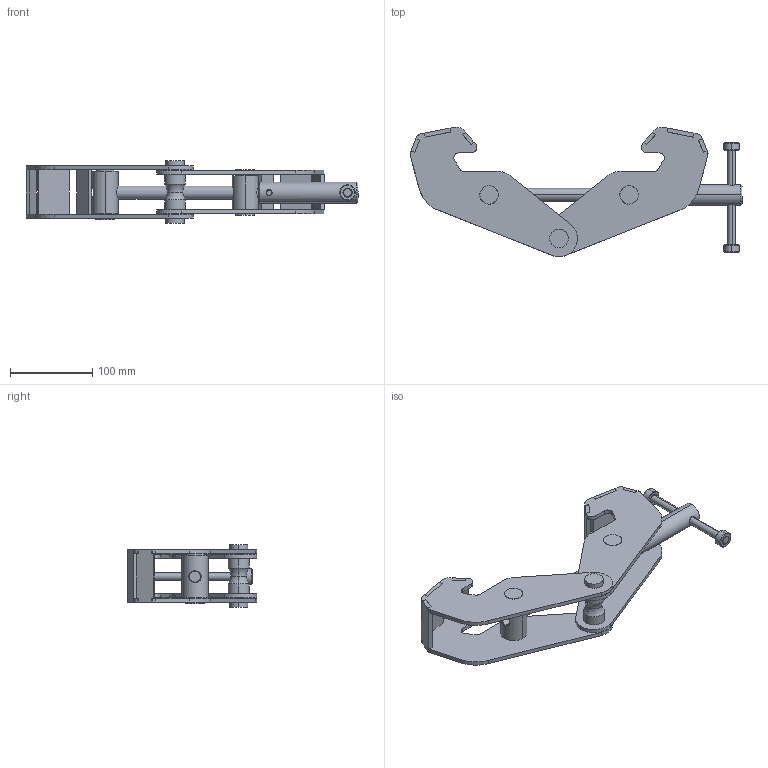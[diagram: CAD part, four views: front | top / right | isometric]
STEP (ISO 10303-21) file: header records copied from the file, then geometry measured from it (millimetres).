
FILE_DESCRIPTION (( 'STEP AP214' ), '1' );
FILE_NAME ('OZ1BC.STEP', '2023-03-27T14:56:49', ( '' ), ( '' ), 'SwSTEP 2.0', 'SolidWorks 2021', '' );
FILE_SCHEMA (( 'AUTOMOTIVE_DESIGN' ));
Length unit declared in the file: inch
Products named in the file (15): OZ1BC-SP01; OZ1BC-PP02; OZ1BC-WELDMENT_Assembly; OZ1BC-WP02; OZ1BC-WP03; OZ1BC-RE01; OZ1BC-HB01; OZ1BC-LP01; OZ1BC-WP04; OZ1BC; OZ1BC-HANDLE; OZ1BC-HR01; OZ1BC-WP01; OZ1BC-PP01; OZ1BC-TR01
Assembly tree (20 placements, depth 3):
  OZ1BC
    OZ1BC-WELDMENT_Assembly
      OZ1BC-SP01  x4
      OZ1BC-WP04
      OZ1BC-WP02  x2
      OZ1BC-PP02
      OZ1BC-LP01
      OZ1BC-WP03
      OZ1BC-WP01  x2
      OZ1BC-PP01
    OZ1BC-TR01
    OZ1BC-HANDLE
      OZ1BC-HB01
      OZ1BC-HR01
      OZ1BC-RE01  x2
Bounding box: 403.22 x 157.47 x 76.2 mm (x, y, z)
Volume: 511398.6 mm3; surface area: 196814.2 mm2
Topology: 18 solids, 18 shells, 364 faces, 914 edges, 594 vertices
Faces by surface type: plane 200, cylinder 110, cone 22, bspline 20, torus 12
Entity records: 24282 total; most frequent: CARTESIAN_POINT 18761, ORIENTED_EDGE 980, DIRECTION 976, EDGE_CURVE 490, AXIS2_PLACEMENT_3D 347, VERTEX_POINT 314, VECTOR 282, LINE 282
